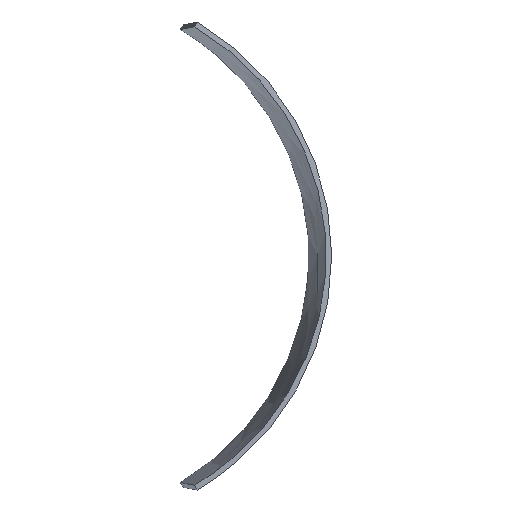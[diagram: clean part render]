
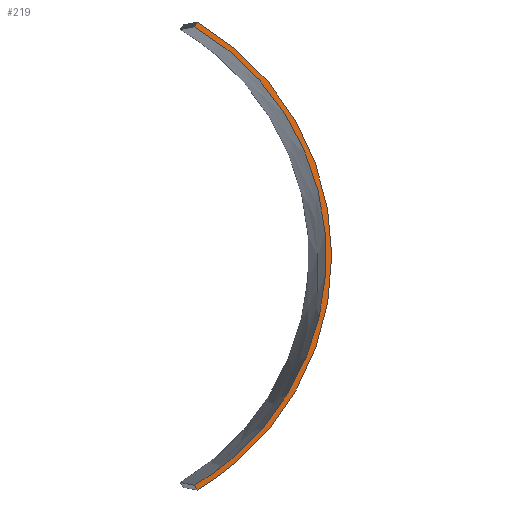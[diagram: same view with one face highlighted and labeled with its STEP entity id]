
A CAD part, left-side view. The second image highlights one B-rep face of the part: STEP entity #219.
In plain terms, the highlighted free-form (B-spline) face has degree [1, 3] with [2, 10] control points.
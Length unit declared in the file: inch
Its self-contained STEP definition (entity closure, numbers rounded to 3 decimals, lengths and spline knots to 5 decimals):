
#13 = CARTESIAN_POINT ( 'NONE',  ( 0.06004, -148.6582, -23.8835 ) ) ;
#16 = CARTESIAN_POINT ( 'NONE',  ( 0.04484, -138.49354, -31.75614 ) ) ;
#20 = CARTESIAN_POINT ( 'NONE',  ( 0., -143.54359, 27.95288 ) ) ;
#21 = VERTEX_POINT ( 'NONE', #449 ) ;
#26 = EDGE_CURVE ( 'NONE', #404, #21, #457, .T. ) ;
#52 = CARTESIAN_POINT ( 'NONE',  ( 0.04484, -138.49354, -31.75614 ) ) ;
#58 = CARTESIAN_POINT ( 'NONE',  ( 0., -143.55912, -27.93979 ) ) ;
#62 = B_SPLINE_CURVE_WITH_KNOTS ( 'NONE', 3,
 ( #195, #342, #191, #306, #472, #350, #467, #13, #146, #257 ),
 .UNSPECIFIED., .F., .F.,
 ( 4, 2, 2, 2, 4 ),
 ( 0., 0.25, 0.5, 0.75, 1. ),
 .UNSPECIFIED. ) ;
#64 = CARTESIAN_POINT ( 'NONE',  ( 0.06004, -148.6582, -23.8835 ) ) ;
#77 = CARTESIAN_POINT ( 'NONE',  ( 0., -148.06212, 23.41328 ) ) ;
#91 = B_SPLINE_CURVE_WITH_KNOTS ( 'NONE', 1,
 ( #422, #392 ),
 .UNSPECIFIED., .F., .F.,
 ( 2, 2 ),
 ( 0., 1. ),
 .UNSPECIFIED. ) ;
#105 = CARTESIAN_POINT ( 'NONE',  ( 0.05312, -144.04881, -28.5204 ) ) ;
#109 = CARTESIAN_POINT ( 'NONE',  ( 0., -156.00175, -6.28794 ) ) ;
#110 = B_SPLINE_CURVE_WITH_KNOTS ( 'NONE', 1,
 ( #111, #322 ),
 .UNSPECIFIED., .F., .F.,
 ( 2, 2 ),
 ( 0., 1. ),
 .UNSPECIFIED. ) ;
#111 = CARTESIAN_POINT ( 'NONE',  ( 0., -138.0995, 31.11926 ) ) ;
#121 = CARTESIAN_POINT ( 'NONE',  ( 0., -138.0995, 31.11926 ) ) ;
#124 = CARTESIAN_POINT ( 'NONE',  ( 0., -138.0995, 31.11926 ) ) ;
#125 = VERTEX_POINT ( 'NONE', #458 ) ;
#146 = CARTESIAN_POINT ( 'NONE',  ( 0.05312, -144.04878, -28.52042 ) ) ;
#149 = FACE_OUTER_BOUND ( 'NONE', #363, .T. ) ;
#152 = CARTESIAN_POINT ( 'NONE',  ( 0., -138.0995, 31.11926 ) ) ;
#168 = CARTESIAN_POINT ( 'NONE',  ( 0., -148.07512, -23.39768 ) ) ;
#191 = CARTESIAN_POINT ( 'NONE',  ( 0.06002, -148.64493, 23.89942 ) ) ;
#195 = CARTESIAN_POINT ( 'NONE',  ( 0.04481, -138.4759, 31.76642 ) ) ;
#207 = VERTEX_POINT ( 'NONE', #16 ) ;
#219 = ADVANCED_FACE ( 'NONE', ( #149 ), #420, .F. ) ;
#221 = CARTESIAN_POINT ( 'NONE',  ( 0., -154.35108, -12.47667 ) ) ;
#225 = CARTESIAN_POINT ( 'NONE',  ( 0., -155.99825, 6.30794 ) ) ;
#226 = EDGE_CURVE ( 'NONE', #21, #207, #91, .T. ) ;
#230 = CARTESIAN_POINT ( 'NONE',  ( 0., -148.06212, 23.41328 ) ) ;
#240 = CARTESIAN_POINT ( 'NONE',  ( 0., -156.00175, -6.28794 ) ) ;
#257 = CARTESIAN_POINT ( 'NONE',  ( 0.04484, -138.49354, -31.75614 ) ) ;
#259 = CARTESIAN_POINT ( 'NONE',  ( 0.07218, -156.7483, -6.41831 ) ) ;
#261 = CARTESIAN_POINT ( 'NONE',  ( 0.06963, -155.0566, 12.75492 ) ) ;
#276 = CARTESIAN_POINT ( 'NONE',  ( 0., -154.34414, 12.49575 ) ) ;
#277 = ORIENTED_EDGE ( 'NONE', *, *, #288, .F. ) ;
#284 = CARTESIAN_POINT ( 'NONE',  ( 0., -138.11679, -31.1092 ) ) ;
#288 = EDGE_CURVE ( 'NONE', #125, #207, #62, .T. ) ;
#302 = CARTESIAN_POINT ( 'NONE',  ( 0.07217, -156.74473, 6.43872 ) ) ;
#306 = CARTESIAN_POINT ( 'NONE',  ( 0.06963, -155.0566, 12.75492 ) ) ;
#311 = CARTESIAN_POINT ( 'NONE',  ( 0.04481, -138.4759, 31.76642 ) ) ;
#322 = CARTESIAN_POINT ( 'NONE',  ( 0.04481, -138.4759, 31.76642 ) ) ;
#324 = CARTESIAN_POINT ( 'NONE',  ( 0., -155.99825, 6.30794 ) ) ;
#342 = CARTESIAN_POINT ( 'NONE',  ( 0.05309, -144.03294, 28.53377 ) ) ;
#346 = CARTESIAN_POINT ( 'NONE',  ( 0., -154.34414, 12.49575 ) ) ;
#350 = CARTESIAN_POINT ( 'NONE',  ( 0.07218, -156.7483, -6.41831 ) ) ;
#354 = CARTESIAN_POINT ( 'NONE',  ( 0., -143.55912, -27.93979 ) ) ;
#363 = EDGE_LOOP ( 'NONE', ( #366, #439, #451, #277 ) ) ;
#366 = ORIENTED_EDGE ( 'NONE', *, *, #503, .F. ) ;
#381 = CARTESIAN_POINT ( 'NONE',  ( 0.06964, -155.06368, -12.73544 ) ) ;
#387 = CARTESIAN_POINT ( 'NONE',  ( 0., -148.07512, -23.39768 ) ) ;
#392 = CARTESIAN_POINT ( 'NONE',  ( 0.04484, -138.49354, -31.75614 ) ) ;
#404 = VERTEX_POINT ( 'NONE', #124 ) ;
#420 = B_SPLINE_SURFACE_WITH_KNOTS ( 'NONE', 1, 3, ( 
 ( #52, #105, #64, #381, #259, #302, #261, #469, #426, #311 ),
 ( #506, #58, #387, #221, #109, #225, #346, #230, #20, #152 ) ),
 .UNSPECIFIED., .F., .F., .F.,
 ( 2, 2 ),
 ( 4, 2, 2, 2, 4 ),
 ( 0., 1. ),
 ( 0., 0.25, 0.5, 0.75, 1. ),
 .UNSPECIFIED. ) ;
#422 = CARTESIAN_POINT ( 'NONE',  ( 0., -138.11679, -31.1092 ) ) ;
#426 = CARTESIAN_POINT ( 'NONE',  ( 0.05309, -144.03296, 28.53376 ) ) ;
#435 = CARTESIAN_POINT ( 'NONE',  ( 0., -154.35108, -12.47667 ) ) ;
#439 = ORIENTED_EDGE ( 'NONE', *, *, #26, .T. ) ;
#449 = CARTESIAN_POINT ( 'NONE',  ( 0., -138.11679, -31.1092 ) ) ;
#451 = ORIENTED_EDGE ( 'NONE', *, *, #226, .T. ) ;
#457 = B_SPLINE_CURVE_WITH_KNOTS ( 'NONE', 3,
 ( #121, #482, #77, #276, #324, #240, #435, #168, #354, #284 ),
 .UNSPECIFIED., .F., .F.,
 ( 4, 2, 2, 2, 4 ),
 ( 0., 0.25, 0.5, 0.75, 1. ),
 .UNSPECIFIED. ) ;
#458 = CARTESIAN_POINT ( 'NONE',  ( 0.04481, -138.4759, 31.76642 ) ) ;
#467 = CARTESIAN_POINT ( 'NONE',  ( 0.06964, -155.06368, -12.73544 ) ) ;
#469 = CARTESIAN_POINT ( 'NONE',  ( 0.06002, -148.64493, 23.89942 ) ) ;
#472 = CARTESIAN_POINT ( 'NONE',  ( 0.07217, -156.74473, 6.43872 ) ) ;
#482 = CARTESIAN_POINT ( 'NONE',  ( 0., -143.54359, 27.95288 ) ) ;
#503 = EDGE_CURVE ( 'NONE', #404, #125, #110, .T. ) ;
#506 = CARTESIAN_POINT ( 'NONE',  ( 0., -138.11679, -31.1092 ) ) ;
